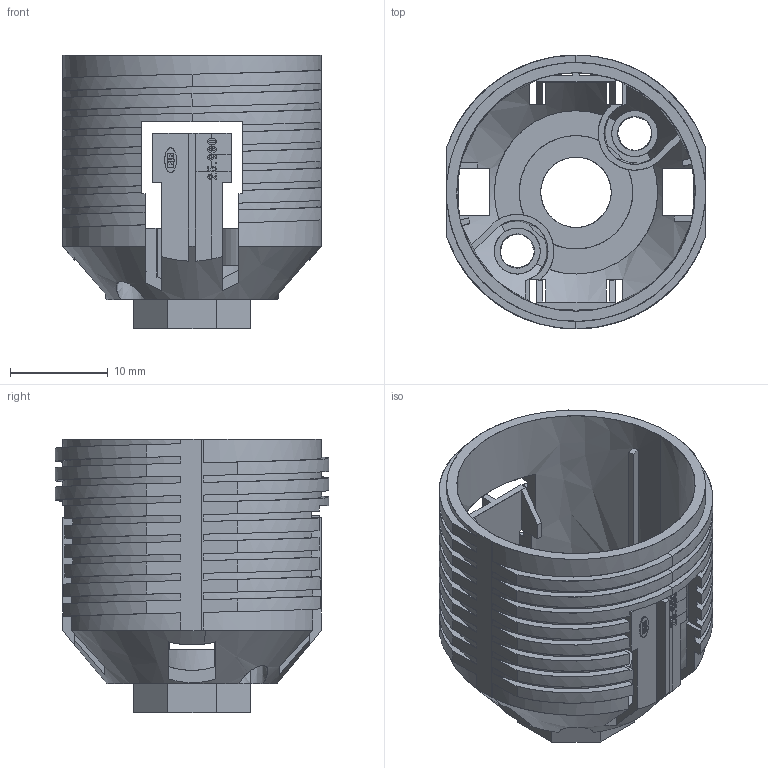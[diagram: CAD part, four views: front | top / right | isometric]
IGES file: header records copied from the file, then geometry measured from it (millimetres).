
Start section: Surface Model. Bezier boundary curves.
Global section: file name: 00WYR03Z02.igs; native system: CT CoreTechnologie TRANS-3D; preprocessor: 2.1; date: 030206.122501; units: millimetre
Bounding box: 26.4 x 28 x 28 mm (x, y, z)
Surface area: 6272.9 mm2 (no closed solid volume)
Topology: 0 solids, 0 shells, 554 faces, 3697 edges, 3697 vertices
Faces by surface type: bspline 554
